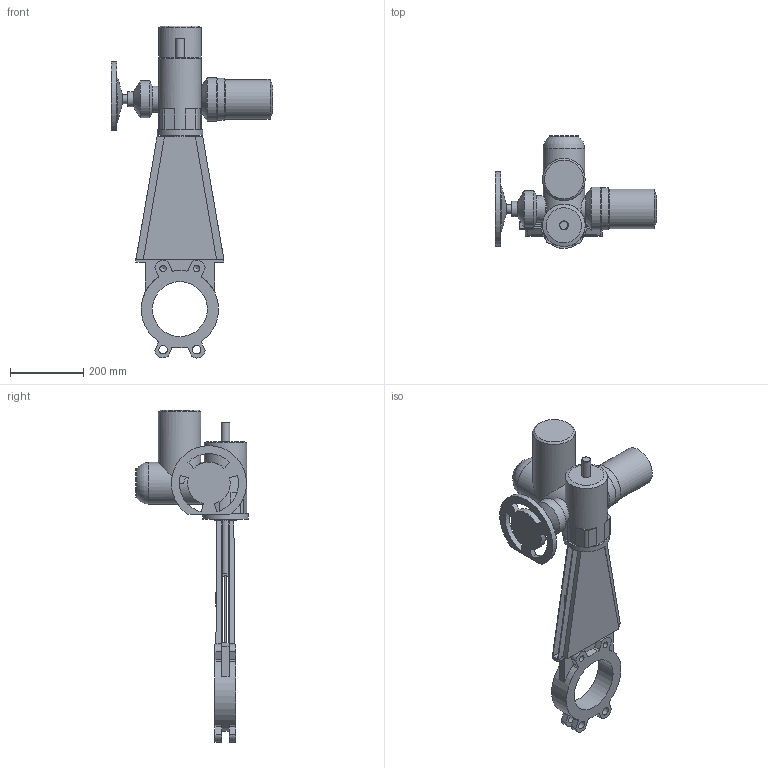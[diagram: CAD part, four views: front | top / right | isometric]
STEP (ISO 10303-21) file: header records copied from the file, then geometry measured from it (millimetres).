
FILE_DESCRIPTION(('STEP AP203'), '1');
FILE_NAME('K21GVA_DN150+MT903.A 07', '', ('UNSPECIFIED'), ('UNSPECIFIED'), 'ASCON STEP Converter 1.6', 'ASCON Math Kernel', '');
FILE_SCHEMA(('CONFIG_CONTROL_DESIGN'));
Length unit declared in the file: millimetre
Bounding box: 440 x 307.5 x 906.4 mm (x, y, z)
Volume: 10422272 mm3; surface area: 914452.9 mm2
Topology: 1 solids, 1 shells, 240 faces, 644 edges, 413 vertices
Faces by surface type: plane 143, cylinder 82, cone 14, torus 1
Full cylindrical faces by diameter (mm): 8.5 x4, 12 x4, 17.294 x4, 23 x4, 24 x3, 42 x1, 60 x1, 66 x1, 72 x1, 80 x1, 100 x1, 108 x1, 114 x1, 115 x1, 116 x2, 119 x1, 125 x1, 150 x1
Entity records: 10282 total; most frequent: CARTESIAN_POINT 2378, DIRECTION 1252, ORIENTED_EDGE 1182, EDGE_CURVE 591, AXIS2_PLACEMENT_3D 447, VERTEX_POINT 409, LINE 358, VECTOR 358
